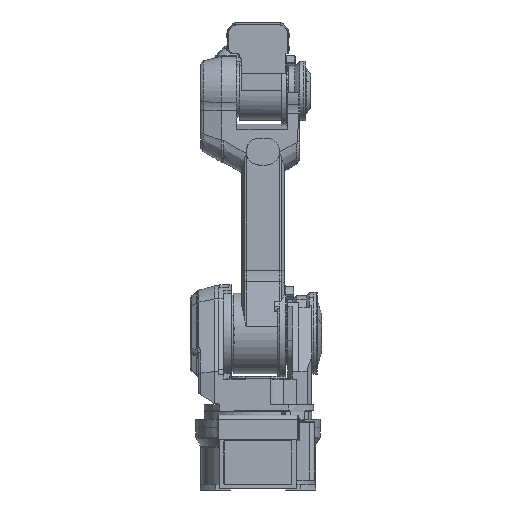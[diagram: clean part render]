
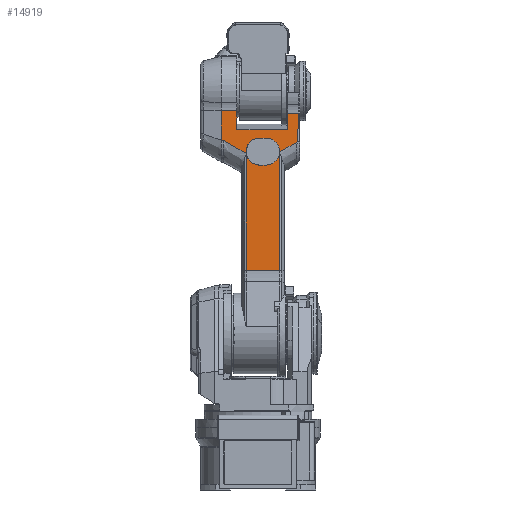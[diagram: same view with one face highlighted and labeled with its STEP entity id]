
A CAD part, front view. The second image highlights one B-rep face of the part: STEP entity #14919.
In plain terms, the highlighted planar face has unit normal (0, -1, 0).
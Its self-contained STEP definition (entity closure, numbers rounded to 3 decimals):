
#13642=CARTESIAN_POINT('Vertex',(186.,-140.,1000.)) ;
#13881=CARTESIAN_POINT('Control Point',(177.776,-140.,869.331)) ;
#13882=CARTESIAN_POINT('Control Point',(178.094,-140.,871.54)) ;
#13883=CARTESIAN_POINT('Control Point',(178.406,-140.,873.752)) ;
#13884=CARTESIAN_POINT('Control Point',(178.709,-140.,875.956)) ;
#13885=CARTESIAN_POINT('Control Point',(179.306,-140.,880.388)) ;
#13886=CARTESIAN_POINT('Control Point',(179.874,-140.,884.829)) ;
#13887=CARTESIAN_POINT('Control Point',(180.151,-140.,887.05)) ;
#13888=CARTESIAN_POINT('Control Point',(180.96,-140.,893.719)) ;
#13889=CARTESIAN_POINT('Control Point',(181.702,-140.,900.404)) ;
#13890=CARTESIAN_POINT('Control Point',(182.166,-140.,904.868)) ;
#13891=CARTESIAN_POINT('Control Point',(183.45,-140.,918.162)) ;
#13892=CARTESIAN_POINT('Control Point',(184.434,-140.,931.497)) ;
#13893=CARTESIAN_POINT('Control Point',(184.945,-140.,940.348)) ;
#13894=CARTESIAN_POINT('Control Point',(185.502,-140.,953.633)) ;
#13895=CARTESIAN_POINT('Control Point',(185.796,-140.,966.907)) ;
#13896=CARTESIAN_POINT('Control Point',(185.868,-140.,971.319)) ;
#13897=CARTESIAN_POINT('Control Point',(185.942,-140.,977.933)) ;
#13898=CARTESIAN_POINT('Control Point',(185.978,-140.,984.539)) ;
#13899=CARTESIAN_POINT('Control Point',(185.986,-140.,986.739)) ;
#13900=CARTESIAN_POINT('Control Point',(185.996,-140.,990.746)) ;
#13901=CARTESIAN_POINT('Control Point',(186.,-140.,994.749)) ;
#13902=CARTESIAN_POINT('Control Point',(186.,-140.,996.464)) ;
#13903=CARTESIAN_POINT('Control Point',(186.,-140.,998.217)) ;
#13904=CARTESIAN_POINT('Control Point',(186.,-140.,1000.)) ;
#13905=CARTESIAN_POINT('Vertex',(177.776,-140.,869.331)) ;
#14689=CARTESIAN_POINT('Vertex',(134.,-140.,925.)) ;
#14692=CARTESIAN_POINT('Line Origine',(134.,-140.,962.5)) ;
#14696=CARTESIAN_POINT('Vertex',(134.,-140.,1000.)) ;
#14785=CARTESIAN_POINT('Line Origine',(94.5,-140.,1000.)) ;
#14797=CARTESIAN_POINT('Axis2P3D Location',(0.,-140.,925.)) ;
#14802=CARTESIAN_POINT('Line Origine',(19.,-140.,925.)) ;
#14806=CARTESIAN_POINT('Vertex',(-96.,-140.,925.)) ;
#14809=CARTESIAN_POINT('Line Origine',(-96.,-140.,967.958)) ;
#14813=CARTESIAN_POINT('Vertex',(-96.,-140.,1010.916)) ;
#14816=CARTESIAN_POINT('Line Origine',(-131.,-140.,1010.916)) ;
#14820=CARTESIAN_POINT('Vertex',(-166.,-140.,1010.916)) ;
#14823=CARTESIAN_POINT('Line Origine',(-166.,-140.,943.458)) ;
#14827=CARTESIAN_POINT('Vertex',(-166.,-140.,876.)) ;
#14830=CARTESIAN_POINT('Line Origine',(-161.,-140.,876.)) ;
#14834=CARTESIAN_POINT('Vertex',(-156.,-140.,876.)) ;
#14837=CARTESIAN_POINT('Line Origine',(-104.91,-140.,846.355)) ;
#14841=CARTESIAN_POINT('Vertex',(-53.82,-140.,816.71)) ;
#14844=CARTESIAN_POINT('Line Origine',(-53.82,-140.,551.471)) ;
#14848=CARTESIAN_POINT('Vertex',(-53.82,-140.,286.232)) ;
#14851=CARTESIAN_POINT('Line Origine',(22.5,-140.,286.232)) ;
#14855=CARTESIAN_POINT('Vertex',(98.82,-140.,286.232)) ;
#14858=CARTESIAN_POINT('Line Origine',(98.82,-140.,554.324)) ;
#14862=CARTESIAN_POINT('Vertex',(98.82,-140.,822.415)) ;
#14865=CARTESIAN_POINT('Line Origine',(138.298,-140.,845.873)) ;
#14885=CARTESIAN_POINT('Line Origine',(22.5,-140.,764.)) ;
#14889=CARTESIAN_POINT('Vertex',(37.5,-140.,764.)) ;
#14891=CARTESIAN_POINT('Vertex',(7.5,-140.,764.)) ;
#14894=CARTESIAN_POINT('Axis2P3D Location',(7.5,-140.,825.)) ;
#14898=CARTESIAN_POINT('Vertex',(7.5,-140.,886.)) ;
#14901=CARTESIAN_POINT('Line Origine',(22.5,-140.,886.)) ;
#14905=CARTESIAN_POINT('Vertex',(37.5,-140.,886.)) ;
#14908=CARTESIAN_POINT('Axis2P3D Location',(37.5,-140.,825.)) ;
#14693=DIRECTION('Vector Direction',(0.,0.,1.)) ;
#14786=DIRECTION('Vector Direction',(-1.,0.,0.)) ;
#14798=DIRECTION('Axis2P3D Direction',(0.,1.,0.)) ;
#14799=DIRECTION('Axis2P3D XDirection',(0.,0.,-1.)) ;
#14803=DIRECTION('Vector Direction',(1.,0.,0.)) ;
#14810=DIRECTION('Vector Direction',(0.,0.,1.)) ;
#14817=DIRECTION('Vector Direction',(-1.,0.,0.)) ;
#14824=DIRECTION('Vector Direction',(0.,0.,1.)) ;
#14831=DIRECTION('Vector Direction',(-1.,0.,0.)) ;
#14838=DIRECTION('Vector Direction',(0.865,0.,-0.502)) ;
#14845=DIRECTION('Vector Direction',(0.,0.,1.)) ;
#14852=DIRECTION('Vector Direction',(-1.,0.,0.)) ;
#14859=DIRECTION('Vector Direction',(0.,0.,1.)) ;
#14866=DIRECTION('Vector Direction',(-0.86,0.,-0.511)) ;
#14886=DIRECTION('Vector Direction',(-1.,0.,0.)) ;
#14895=DIRECTION('Axis2P3D Direction',(0.,1.,0.)) ;
#14902=DIRECTION('Vector Direction',(1.,0.,0.)) ;
#14909=DIRECTION('Axis2P3D Direction',(0.,1.,0.)) ;
#14800=AXIS2_PLACEMENT_3D('Plane Axis2P3D',#14797,#14798,#14799) ;
#14896=AXIS2_PLACEMENT_3D('Circle Axis2P3D',#14894,#14895,$) ;
#14910=AXIS2_PLACEMENT_3D('Circle Axis2P3D',#14908,#14909,$) ;
#14871=ORIENTED_EDGE('',*,*,#14698,.F.) ;
#14872=ORIENTED_EDGE('',*,*,#14808,.F.) ;
#14873=ORIENTED_EDGE('',*,*,#14815,.T.) ;
#14874=ORIENTED_EDGE('',*,*,#14822,.F.) ;
#14875=ORIENTED_EDGE('',*,*,#14829,.F.) ;
#14876=ORIENTED_EDGE('',*,*,#14836,.F.) ;
#14877=ORIENTED_EDGE('',*,*,#14843,.T.) ;
#14878=ORIENTED_EDGE('',*,*,#14850,.F.) ;
#14879=ORIENTED_EDGE('',*,*,#14857,.F.) ;
#14880=ORIENTED_EDGE('',*,*,#14864,.F.) ;
#14881=ORIENTED_EDGE('',*,*,#14869,.F.) ;
#14882=ORIENTED_EDGE('',*,*,#13907,.F.) ;
#14883=ORIENTED_EDGE('',*,*,#14789,.F.) ;
#14914=ORIENTED_EDGE('',*,*,#14893,.T.) ;
#14915=ORIENTED_EDGE('',*,*,#14900,.T.) ;
#14916=ORIENTED_EDGE('',*,*,#14907,.T.) ;
#14917=ORIENTED_EDGE('',*,*,#14912,.T.) ;
#14918=FACE_BOUND('',#14913,.T.) ;
#14694=VECTOR('Line Direction',#14693,1.) ;
#14787=VECTOR('Line Direction',#14786,1.) ;
#14804=VECTOR('Line Direction',#14803,1.) ;
#14811=VECTOR('Line Direction',#14810,1.) ;
#14818=VECTOR('Line Direction',#14817,1.) ;
#14825=VECTOR('Line Direction',#14824,1.) ;
#14832=VECTOR('Line Direction',#14831,1.) ;
#14839=VECTOR('Line Direction',#14838,1.) ;
#14846=VECTOR('Line Direction',#14845,1.) ;
#14853=VECTOR('Line Direction',#14852,1.) ;
#14860=VECTOR('Line Direction',#14859,1.) ;
#14867=VECTOR('Line Direction',#14866,1.) ;
#14887=VECTOR('Line Direction',#14886,1.) ;
#14903=VECTOR('Line Direction',#14902,1.) ;
#14919=ADVANCED_FACE('\X2\FF8AFF9FFF70FF82\X0\ \X2\FF8EFF9EFF83FF9EFF68FF70\X0\',(#14884,#14918),#14801,.F.) ;
#13880=B_SPLINE_CURVE_WITH_KNOTS('',5,(#13881,#13882,#13883,#13884,#13885,#13886,#13887,#13888,#13889,#13890,#13891,#13892,#13893,#13894,#13895,#13896,#13897,#13898,#13899,#13900,#13901,#13902,#13903,#13904),.UNSPECIFIED.,.F.,.U.,(6,3,3,3,3,3,3,6),(207.008,218.197,229.373,251.726,295.873,317.87,328.868,337.905),.UNSPECIFIED.) ;
#14897=CIRCLE('generated circle',#14896,61.) ;
#14911=CIRCLE('generated circle',#14910,61.) ;
#13907=EDGE_CURVE('',#13643,#13906,#13880,.F.) ;
#14698=EDGE_CURVE('',#14690,#14697,#14695,.T.) ;
#14789=EDGE_CURVE('',#14697,#13643,#14788,.F.) ;
#14808=EDGE_CURVE('',#14807,#14690,#14805,.T.) ;
#14815=EDGE_CURVE('',#14807,#14814,#14812,.T.) ;
#14822=EDGE_CURVE('',#14821,#14814,#14819,.F.) ;
#14829=EDGE_CURVE('',#14828,#14821,#14826,.T.) ;
#14836=EDGE_CURVE('',#14835,#14828,#14833,.T.) ;
#14843=EDGE_CURVE('',#14835,#14842,#14840,.T.) ;
#14850=EDGE_CURVE('',#14849,#14842,#14847,.T.) ;
#14857=EDGE_CURVE('',#14856,#14849,#14854,.T.) ;
#14864=EDGE_CURVE('',#14863,#14856,#14861,.F.) ;
#14869=EDGE_CURVE('',#13906,#14863,#14868,.T.) ;
#14893=EDGE_CURVE('',#14890,#14892,#14888,.T.) ;
#14900=EDGE_CURVE('',#14892,#14899,#14897,.T.) ;
#14907=EDGE_CURVE('',#14899,#14906,#14904,.T.) ;
#14912=EDGE_CURVE('',#14906,#14890,#14911,.T.) ;
#14870=EDGE_LOOP('',(#14871,#14872,#14873,#14874,#14875,#14876,#14877,#14878,#14879,#14880,#14881,#14882,#14883)) ;
#14913=EDGE_LOOP('',(#14914,#14915,#14916,#14917)) ;
#14884=FACE_OUTER_BOUND('',#14870,.T.) ;
#14695=LINE('Line',#14692,#14694) ;
#14788=LINE('Line',#14785,#14787) ;
#14805=LINE('Line',#14802,#14804) ;
#14812=LINE('Line',#14809,#14811) ;
#14819=LINE('Line',#14816,#14818) ;
#14826=LINE('Line',#14823,#14825) ;
#14833=LINE('Line',#14830,#14832) ;
#14840=LINE('Line',#14837,#14839) ;
#14847=LINE('Line',#14844,#14846) ;
#14854=LINE('Line',#14851,#14853) ;
#14861=LINE('Line',#14858,#14860) ;
#14868=LINE('Line',#14865,#14867) ;
#14888=LINE('Line',#14885,#14887) ;
#14904=LINE('Line',#14901,#14903) ;
#14801=PLANE('',#14800) ;
#13643=VERTEX_POINT('',#13642) ;
#13906=VERTEX_POINT('',#13905) ;
#14690=VERTEX_POINT('',#14689) ;
#14697=VERTEX_POINT('',#14696) ;
#14807=VERTEX_POINT('',#14806) ;
#14814=VERTEX_POINT('',#14813) ;
#14821=VERTEX_POINT('',#14820) ;
#14828=VERTEX_POINT('',#14827) ;
#14835=VERTEX_POINT('',#14834) ;
#14842=VERTEX_POINT('',#14841) ;
#14849=VERTEX_POINT('',#14848) ;
#14856=VERTEX_POINT('',#14855) ;
#14863=VERTEX_POINT('',#14862) ;
#14890=VERTEX_POINT('',#14889) ;
#14892=VERTEX_POINT('',#14891) ;
#14899=VERTEX_POINT('',#14898) ;
#14906=VERTEX_POINT('',#14905) ;
